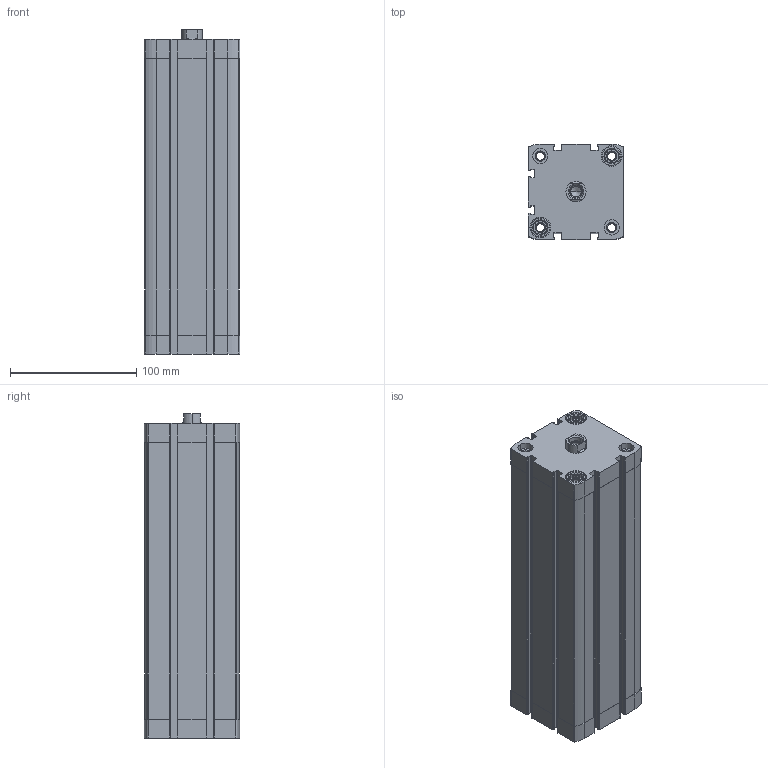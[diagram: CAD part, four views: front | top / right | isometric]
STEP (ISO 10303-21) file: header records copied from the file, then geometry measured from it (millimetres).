
FILE_DESCRIPTION (( 'STEP AP203' ), '1' );
FILE_NAME ('CCN63-200F.STEP', '2017-04-05T16:27:41', ( '' ), ( '' ), 'SwSTEP 2.0', 'SolidWorks 2016', '' );
FILE_SCHEMA (( 'CONFIG_CONTROL_DESIGN' ));
Length unit declared in the file: millimetre
Products named in the file (3): CCN-200---(Z); CCN-200_(KS); CCN63-200F
Assembly tree (2 placements, depth 2):
  CCN63-200F
    CCN-200---(Z)
    CCN-200_(KS)
Bounding box: 75.5 x 75.5 x 256.5 mm (x, y, z)
Volume: 722359.4 mm3; surface area: 197581 mm2
Topology: 2 solids, 2 shells, 471 faces, 1278 edges, 841 vertices
Faces by surface type: plane 219, cylinder 210, cone 42
Entity records: 15349 total; most frequent: CARTESIAN_POINT 2887, DIRECTION 2604, ORIENTED_EDGE 2552, EDGE_CURVE 1276, AXIS2_PLACEMENT_3D 950, VERTEX_POINT 841, LINE 704, VECTOR 704
